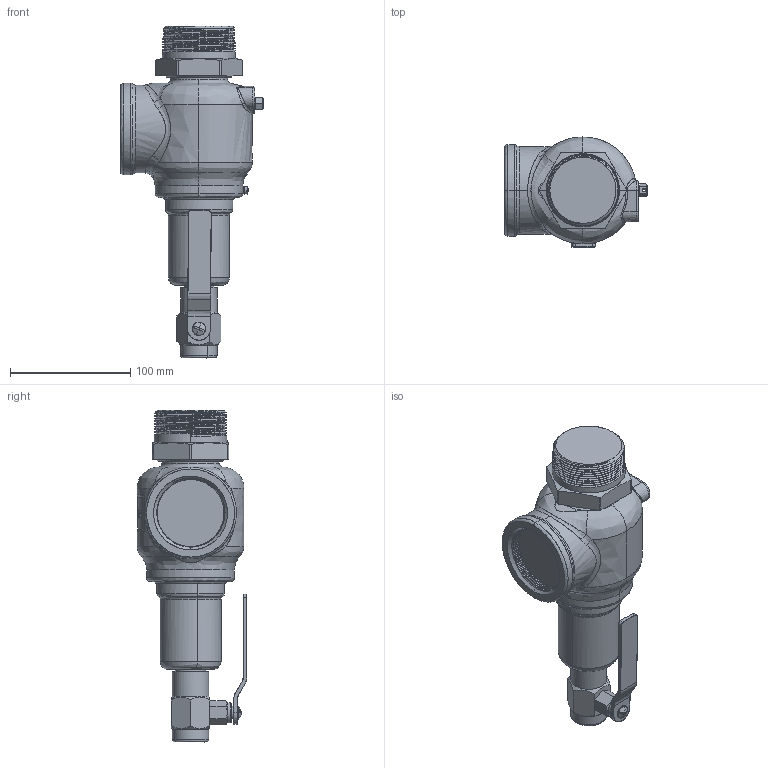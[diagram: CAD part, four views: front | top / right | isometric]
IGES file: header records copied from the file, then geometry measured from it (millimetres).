
Start section: SolidWorks IGES file using NURBS representation for surfaces
Global section: file name: C:\Design\Design\Aquatrol\Customer 3D Files\Series 740 Customer Files\G Orifice\Customer\Iges Files\Series 740 G 2000 x 2000 Packed Lever.IGS; native system: SolidWorks 2015; preprocessor: SolidWorks 2015; author: Karl; date: 150515.102608; units: inch
Bounding box: 118.63 x 91.33 x 276.29 mm (x, y, z)
Surface area: 82702.9 mm2 (no closed solid volume)
Topology: 0 solids, 0 shells, 416 faces, 7990 edges, 7990 vertices
Faces by surface type: bspline 416
